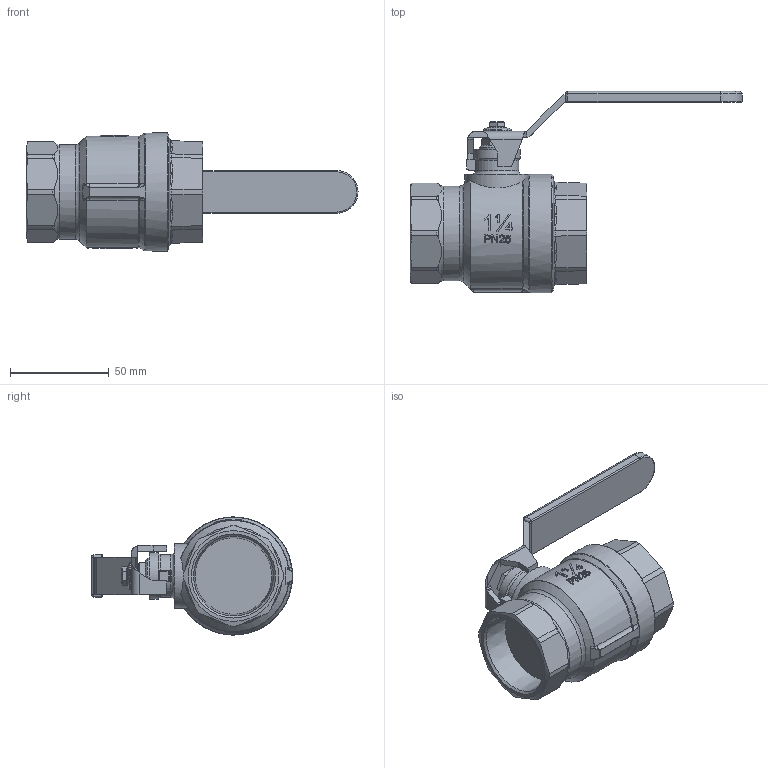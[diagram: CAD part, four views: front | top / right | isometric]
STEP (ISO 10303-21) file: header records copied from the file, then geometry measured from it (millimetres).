
FILE_DESCRIPTION((''),'2;1');
FILE_NAME('P:\Fastrack\53972_CRANE 3D\Ball Valves\Workplace\Crane Ball Valves\D171_1 1-4in\D171_1 1-4in.stp','2011-02-14T11:40:28',('btaylor'),(''),'Autodesk Inventor 2008','Autodesk Inventor 2008','');
FILE_SCHEMA(('AUTOMOTIVE_DESIGN { 1 0 10303 214 1 1 1 1 }'));
Length unit declared in the file: millimetre
Products named in the file (1): D171_1 1-4in
Bounding box: 168.51 x 102.1 x 60 mm (x, y, z)
Volume: 191595.3 mm3; surface area: 33506.1 mm2
Topology: 1 solids, 1 shells, 1242 faces, 3317 edges, 2170 vertices
Faces by surface type: plane 728, bspline 393, cylinder 72, cone 29, torus 18, sphere 2
Full cylindrical faces by diameter (mm): 11 x1, 14.2 x1, 18 x1, 23.5 x1, 32.798 x1, 48 x1, 60 x1
Entity records: 61734 total; most frequent: CARTESIAN_POINT 33254, ORIENTED_EDGE 6566, DIRECTION 4327, EDGE_CURVE 3283, VERTEX_POINT 2161, VECTOR 2031, LINE 2031, EDGE_LOOP 1362
